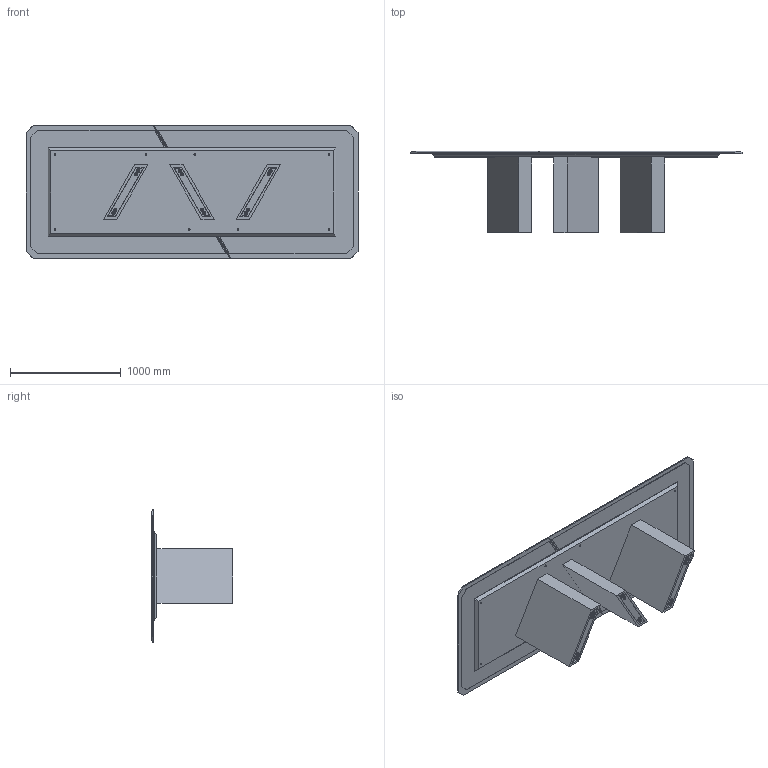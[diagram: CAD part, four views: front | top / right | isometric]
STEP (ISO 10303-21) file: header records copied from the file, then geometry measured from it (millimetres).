
FILE_DESCRIPTION (( 'STEP AP214' ), '1' );
FILE_NAME ('PlatiumClass_300 x120.STEP', '2026-05-05T09:31:40', ( '' ), ( '' ), 'SwSTEP 2.0', 'SolidWorks 2025', '' );
FILE_SCHEMA (( 'AUTOMOTIVE_DESIGN' ));
Length unit declared in the file: millimetre
Products named in the file (12): PlatiumClass_LAMIERA_Lamiera 300 x120 OPZ 40; PlatiumClass_RIVESTIMENTO_UNICO_GAMBA_MARMO; PlatiumClass_GAMBA_h70; PlatiumClass_SOTTOPIANO_SOTTOPIANO_300 x 120; PlatinumClass_ASSIEME_GAMBA_UNICO_MARMO; PlatinumClass_Assieme_SOTTOPIANO_GOMMINA_PlatiumClass_300 x 120; PlatiumClass_300 x120; PlatiumClass_GOMMINA_SOTTOPIANO_PlatiumClass_300 x 120_GOMMINA_SOTTOPIANO; PlatiumClass_DISTANZIALE_TAVOLO_Piatto_Metallo_Piano_120_xD; PlatiumClass_PIANO_(260 280 300) x (120 e 140)_Buratti_TAVOLO_300 x 120 OPZ40; PlatiumClass_PIASTRINA_GAMBA; PlatinumClass_tavolo_300 x 120_PlatiumClass_PIANO_300 x120 OPZ40
Assembly tree (18 placements, depth 3):
  PlatiumClass_300 x120
    PlatinumClass_Assieme_SOTTOPIANO_GOMMINA_PlatiumClass_300 x 120
      PlatiumClass_SOTTOPIANO_SOTTOPIANO_300 x 120
      PlatiumClass_GOMMINA_SOTTOPIANO_PlatiumClass_300 x 120_GOMMINA_SOTTOPIANO
    PlatinumClass_ASSIEME_GAMBA_UNICO_MARMO  x3
      PlatiumClass_GAMBA_h70
      PlatiumClass_RIVESTIMENTO_UNICO_GAMBA_MARMO
      PlatiumClass_PIASTRINA_GAMBA
    PlatinumClass_tavolo_300 x 120_PlatiumClass_PIANO_300 x120 OPZ40
      PlatiumClass_PIANO_(260 280 300) x (120 e 140)_Buratti_TAVOLO_300 x 120 OPZ40  x2
      PlatiumClass_DISTANZIALE_TAVOLO_Piatto_Metallo_Piano_120_xD
      PlatiumClass_LAMIERA_Lamiera 300 x120 OPZ 40  x2
Bounding box: 3000 x 736.5 x 1200 mm (x, y, z)
Volume: 249008690 mm3; surface area: 26431519.9 mm2
Topology: 25 solids, 25 shells, 612 faces, 1514 edges, 996 vertices
Faces by surface type: plane 340, cylinder 256, cone 16
Entity records: 9209 total; most frequent: CARTESIAN_POINT 1822, DIRECTION 1521, ORIENTED_EDGE 1390, EDGE_CURVE 695, AXIS2_PLACEMENT_3D 553, VERTEX_POINT 462, VECTOR 415, LINE 415
